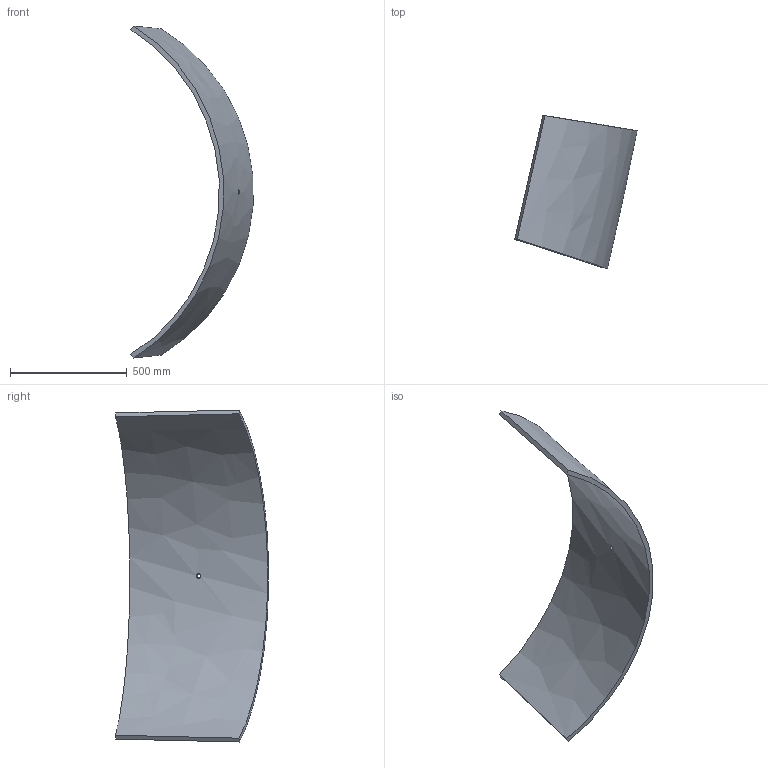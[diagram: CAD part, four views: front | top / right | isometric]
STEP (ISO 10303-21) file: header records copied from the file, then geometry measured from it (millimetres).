
FILE_DESCRIPTION (( 'STEP AP214' ), '1' );
FILE_NAME ('Section 5-B.STEP', '2025-01-09T19:43:27', ( '' ), ( '' ), 'SwSTEP 2.0', 'SolidWorks 2024', '' );
FILE_SCHEMA (( 'AUTOMOTIVE_DESIGN' ));
Length unit declared in the file: inch
Products named in the file (1): Section 5-B
Bounding box: 522.45 x 654.18 x 1419.6 mm (x, y, z)
Volume: 18592930.8 mm3; surface area: 2037571.3 mm2
Topology: 1 solids, 1 shells, 7 faces, 15 edges, 10 vertices
Faces by surface type: bspline 6, cylinder 1
Full cylindrical faces by diameter (mm): 19.431 x1
Entity records: 521 total; most frequent: CARTESIAN_POINT 384, ORIENTED_EDGE 28, B_SPLINE_CURVE_WITH_KNOTS 14, EDGE_CURVE 14, EDGE_LOOP 10, VERTEX_POINT 10, FACE_OUTER_BOUND 8, ADVANCED_FACE 7
